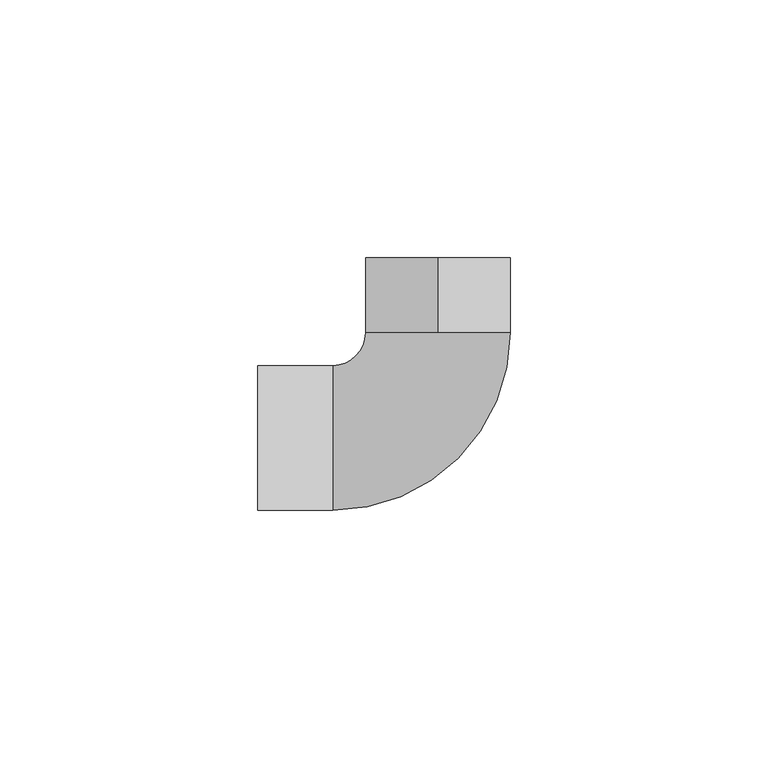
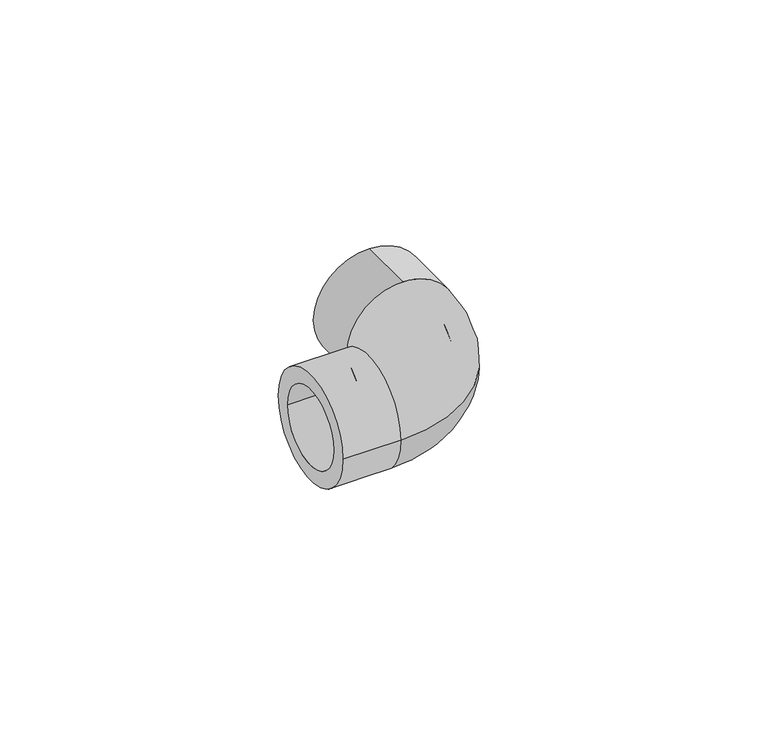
"""IFC4 building model written with IfcOpenShell, lengths in millimetres: pipe fitting geometry, 35_Угольник полипропиленовый 90 : Белый цвет."""

from ifc_helpers import new_model, si_unit, point, frame, origin, place, context, project, spatial, polyline, circle_curve, ellipse_curve, trimmed, source, transform, mapped, element, save
from ifc_brep_helpers import plane_surface, cylinder_surface, revolved_surface, advanced_brep


def pipe_fitting_a70e182a(model_context):
    return source(origin(), model_context, "Body", "AdvancedBrep", [
        advanced_brep(
        [(-34.85, -14.0, 0.0), (-34.85, 14.0, 0.0), (-34.85, -10.0, 0.0), (-34.85, 10.0, 0.0), (-20.35, 14.0, 0.0), (-20.35, -14.0, 0.0), (-20.35, 10.0, 0.0), (-20.35, -10.0, 0.0), (-20.35, -8.5, 0.0), (-20.35, 8.5, 0.0), (0.0, 20.35, 10.0), (0.0, 20.35, -10.0), (8.5, 20.35, 0.0), (-8.5, 20.35, 0.0), (-14.0, 20.35, 0.0), (14.0, 20.35, 0.0), (0.0, 20.35, 14.0), (0.0, 20.35, -14.0), (0.0, 34.85, -14.0), (0.0, 34.85, 14.0), (0.0, 34.85, -10.0), (0.0, 34.85, 10.0)],
        [
            (0, 1, circle_curve(frame((-34.85, 0.0, 0.0), z_axis=(-1.0, 0.0, 0.0), x_axis=(0.0, 1.0, 0.0)), 14.0)),
            (1, 0, circle_curve(frame((-34.85, 0.0, 0.0), z_axis=(-1.0, 0.0, 0.0), x_axis=(0.0, 1.0, 0.0)), 14.0)),
            (2, 3, circle_curve(frame((-34.85, 0.0, 0.0), z_axis=(1.0, 0.0, 0.0), x_axis=(0.0, 1.0, 0.0)), 10.0)),
            (3, 2, circle_curve(frame((-34.85, 0.0, 0.0), z_axis=(1.0, 0.0, 0.0), x_axis=(0.0, 1.0, 0.0)), 10.0)),
            (1, 4),
            (4, 5, circle_curve(frame((-20.35, 0.0, 0.0), z_axis=(-1.0, 0.0, 0.0), x_axis=(0.0, 1.0, 0.0)), 14.0)),
            (5, 0),
            (5, 4, circle_curve(frame((-20.35, 0.0, 0.0), z_axis=(-1.0, 0.0, 0.0), x_axis=(0.0, 1.0, 0.0)), 14.0)),
            (3, 6),
            (6, 7, circle_curve(frame((-20.35, 0.0, 0.0), z_axis=(1.0, 0.0, 0.0), x_axis=(0.0, 1.0, 0.0)), 10.0)),
            (7, 2),
            (7, 6, circle_curve(frame((-20.35, 0.0, 0.0), z_axis=(1.0, 0.0, 0.0), x_axis=(0.0, 1.0, 0.0)), 10.0)),
            (8, 9, circle_curve(frame((-20.35, 0.0, 0.0), z_axis=(1.0, 0.0, 0.0), x_axis=(0.0, 1.0, 0.0)), 8.5)),
            (9, 8, circle_curve(frame((-20.35, 0.0, 0.0), z_axis=(1.0, 0.0, 0.0), x_axis=(0.0, 1.0, 0.0)), 8.5)),
            (10, 11, circle_curve(frame((0.0, 20.35, 0.0), z_axis=(0.0, 1.0, 0.0), x_axis=(0.0, 0.0, 1.0)), 10.0)),
            (11, 10, circle_curve(frame((0.0, 20.35, 0.0), z_axis=(0.0, 1.0, 0.0), x_axis=(0.0, 0.0, 1.0)), 10.0)),
            (12, 13, circle_curve(frame((0.0, 20.35, 0.0), z_axis=(0.0, -1.0, 0.0), x_axis=(-1.0, 0.0, 0.0)), 8.5)),
            (13, 12, circle_curve(frame((0.0, 20.35, 0.0), z_axis=(0.0, -1.0, 0.0), x_axis=(-1.0, 0.0, 0.0)), 8.5)),
            (14, 4, circle_curve(frame((-20.35, 20.35, 0.0), z_axis=(0.0, 0.0, -1.0), x_axis=(0.0, -1.0, 0.0)), 6.35)),
            (5, 15, circle_curve(frame((-20.35, 20.35, 0.0), z_axis=(0.0, 0.0, 1.0), x_axis=(0.0, -1.0, 0.0)), 34.35)),
            (15, 16, circle_curve(frame((0.0, 20.35, 0.0), z_axis=(0.0, -1.0, 0.0), x_axis=(-1.0, 0.0, 0.0)), 14.0)),
            (16, 14, circle_curve(frame((0.0, 20.35, 0.0), z_axis=(0.0, -1.0, 0.0), x_axis=(-1.0, 0.0, 0.0)), 14.0)),
            (14, 17, circle_curve(frame((0.0, 20.35, 0.0), z_axis=(0.0, -1.0, 0.0), x_axis=(-1.0, 0.0, 0.0)), 14.0)),
            (17, 15, circle_curve(frame((0.0, 20.35, 0.0), z_axis=(0.0, -1.0, 0.0), x_axis=(-1.0, 0.0, 0.0)), 14.0)),
            (8, 12, circle_curve(frame((-20.35, 20.35, 0.0), z_axis=(0.0, 0.0, 1.0), x_axis=(0.0, -1.0, 0.0)), 28.85)),
            (13, 9, circle_curve(frame((-20.35, 20.35, 0.0), z_axis=(0.0, 0.0, -1.0), x_axis=(0.0, -1.0, 0.0)), 11.85)),
            (18, 19, circle_curve(frame((0.0, 34.85, 0.0), z_axis=(0.0, 1.0, 0.0), x_axis=(0.0, 0.0, 1.0)), 14.0)),
            (19, 18, circle_curve(frame((0.0, 34.85, 0.0), z_axis=(0.0, 1.0, 0.0), x_axis=(0.0, 0.0, 1.0)), 14.0)),
            (20, 21, circle_curve(frame((0.0, 34.85, 0.0), z_axis=(0.0, -1.0, 0.0), x_axis=(0.0, 0.0, 1.0)), 10.0)),
            (21, 20, circle_curve(frame((0.0, 34.85, 0.0), z_axis=(0.0, -1.0, 0.0), x_axis=(0.0, 0.0, 1.0)), 10.0)),
            (18, 17),
            (16, 19),
            (20, 11),
            (10, 21),
        ],
        [
            plane_surface(frame((-34.85, 14.0, 0.0), z_axis=(-1.0, 0.0, 0.0), x_axis=(0.0, 0.0, -1.0))),
            cylinder_surface(frame((-34.85, 0.0, 0.0), z_axis=(1.0, 0.0, 0.0), x_axis=(0.0, 1.0, 0.0)), 14.0),
            revolved_surface(polyline([(-34.85, 10.0, 0.0), (-20.35, 10.0, 0.0)]), (0.0, 0.0, 0.0), (-1.0, 0.0, 0.0)),
            plane_surface(frame((-20.35, 0.0, 0.0), z_axis=(-1.0, 0.0, 0.0), x_axis=(0.0, 0.0, 1.0))),
            plane_surface(frame((0.0, 20.35, 0.0), z_axis=(0.0, 1.0, 0.0), x_axis=(0.0, 0.0, 1.0))),
            revolved_surface(trimmed(ellipse_curve(frame((-20.35, 0.0, 0.0), z_axis=(-1.0, 0.0, 0.0), x_axis=(0.0, 1.0, 0.0)), 14.0, 14.0), [point((-20.35, -14.0, 0.0))], [point((-20.35, 14.0, 0.0))], True, "CARTESIAN"), (-20.35, 20.35, 0.0), (0.0, 0.0, 1.0)),
            revolved_surface(trimmed(ellipse_curve(frame((-20.35, 0.0, 0.0), z_axis=(-1.0, 0.0, 0.0), x_axis=(0.0, 1.0, 0.0)), 14.0, 14.0), [point((-20.35, 14.0, 0.0))], [point((-20.35, -14.0, 0.0))], True, "CARTESIAN"), (-20.35, 20.35, 0.0), (0.0, 0.0, 1.0)),
            revolved_surface(trimmed(ellipse_curve(frame((-20.35, 0.0, 0.0), z_axis=(1.0, 0.0, 0.0), x_axis=(0.0, 1.0, 0.0)), 8.5, 8.5), [point((-20.35, -8.5, 0.0))], [point((-20.35, 8.5, 0.0))], True, "CARTESIAN"), (-20.35, 20.35, 0.0), (0.0, 0.0, 1.0)),
            revolved_surface(trimmed(ellipse_curve(frame((-20.35, 0.0, 0.0), z_axis=(1.0, 0.0, 0.0), x_axis=(0.0, 1.0, 0.0)), 8.5, 8.5), [point((-20.35, 8.5, 0.0))], [point((-20.35, -8.5, 0.0))], True, "CARTESIAN"), (-20.35, 20.35, 0.0), (0.0, 0.0, 1.0)),
            plane_surface(frame((0.0, 34.85, 14.0), z_axis=(0.0, 1.0, 0.0), x_axis=(1.0, 0.0, 0.0))),
            cylinder_surface(frame((0.0, 20.35, 0.0), z_axis=(0.0, 1.0, 0.0), x_axis=(0.0, 0.0, 1.0)), 14.0),
            revolved_surface(polyline([(0.0, 20.35, 10.0), (0.0, 34.85, 10.0)]), (0.0, 20.35, 0.0), (0.0, -1.0, 0.0)),
        ],
        [
            (0, [[1, 2], [3, 4]]),
            (1, [[-2, 5, 6, 7]]),
            (1, [[-1, -7, 8, -5]]),
            (2, [[-4, 9, 10, 11]]),
            (2, [[-3, -11, 12, -9]]),
            (3, [[-10, -12], [13, 14]]),
            (4, [[15, 16], [17, 18]]),
            (5, [[19, -8, 20, 21, 22]]),
            (6, [[-19, 23, 24, -20, -6]]),
            (7, [[-13, 25, -18, 26]]),
            (8, [[-14, -26, -17, -25]]),
            (9, [[27, 28], [29, 30]]),
            (10, [[-27, 31, -23, -22, 32]]),
            (10, [[-28, -32, -21, -24, -31]]),
            (11, [[-29, 33, -15, 34]]),
            (11, [[-30, -34, -16, -33]]),
        ],
    ),
    ])


if __name__ == "__main__":
    model = new_model("IFC4")
    model_context = context("Model", 3, world=origin())
    ifc_project = project(units=[si_unit("LENGTHUNIT", "METRE", prefix="MILLI")], contexts=[model_context])
    site = spatial("IfcSite", under=ifc_project)
    building = spatial("IfcBuilding", under=site)
    placement = place(None, origin())
    pipe_fitting_shape = pipe_fitting_a70e182a(model_context)
    element("IfcPipeFitting", 1, ObjectType="35_Угольник полипропиленовый 90 : Белый цвет", at=placement, inside=building, context=model_context, shape_type="MappedRepresentation", body=[
        mapped(pipe_fitting_shape, transform((0.0, 0.0, 0.0), x_axis=(1.0, 0.0, 0.0), y_axis=(0.0, 1.0, 0.0), z_axis=(0.0, 0.0, 1.0))),
    ])
    save(model, "model.ifc")
